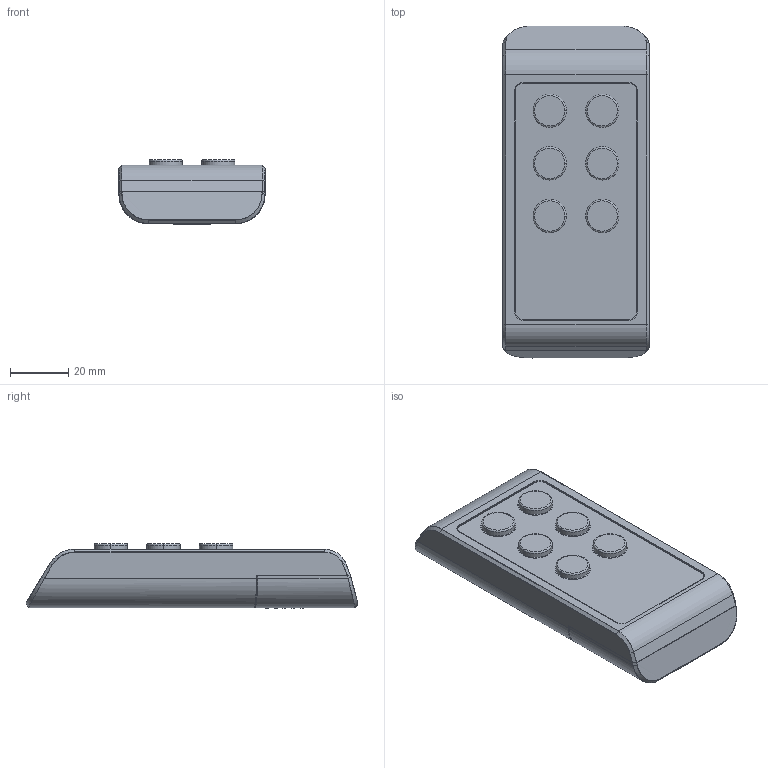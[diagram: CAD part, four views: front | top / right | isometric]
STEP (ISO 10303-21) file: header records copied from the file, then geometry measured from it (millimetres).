
FILE_DESCRIPTION (( 'STEP AP203' ), '1' );
FILE_NAME ('TH3.STEP', '2014-01-16T02:57:46', ( 'stanley' ), ( '' ), 'SwSTEP 2.0', 'SolidWorks 2010', '' );
FILE_SCHEMA (( 'CONFIG_CONTROL_DESIGN' ));
Length unit declared in the file: millimetre
Products named in the file (1): TH3
Bounding box: 50 x 113.58 x 22.2 mm (x, y, z)
Volume: 100693.2 mm3; surface area: 17625.6 mm2
Topology: 1 solids, 7 shells, 206 faces, 462 edges, 281 vertices
Faces by surface type: cylinder 79, plane 75, bspline 23, torus 21, cone 4, sphere 4
Entity records: 8178 total; most frequent: CARTESIAN_POINT 3605, DIRECTION 927, ORIENTED_EDGE 916, EDGE_CURVE 458, AXIS2_PLACEMENT_3D 353, VERTEX_POINT 279, EDGE_LOOP 231, VECTOR 221
